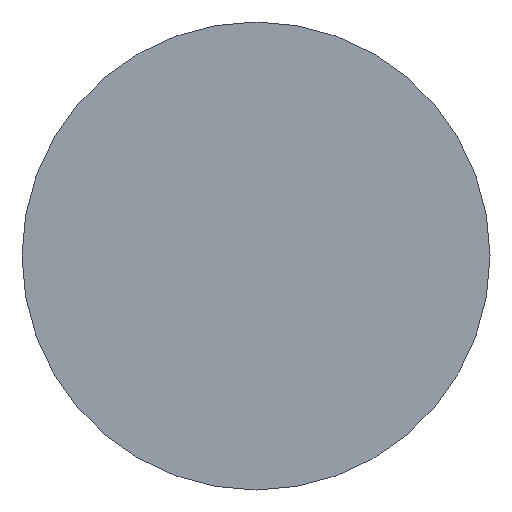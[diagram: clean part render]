
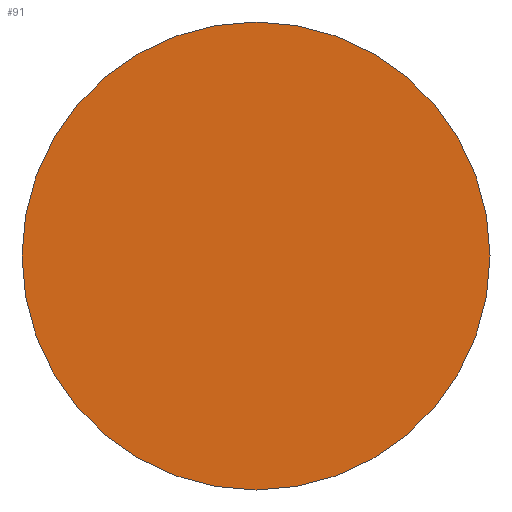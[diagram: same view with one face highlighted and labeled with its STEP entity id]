
A CAD part, left-side view. The second image highlights one B-rep face of the part: STEP entity #91.
In plain terms, the highlighted planar face has unit normal (-1, 0, 0).
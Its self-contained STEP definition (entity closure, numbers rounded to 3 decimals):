
#52=CARTESIAN_POINT('Axis2P3D Location',(0.,0.,0.)) ;
#57=CARTESIAN_POINT('Axis2P3D Location',(0.,0.,0.)) ;
#61=CARTESIAN_POINT('Vertex',(0.,0.,-21.5)) ;
#63=CARTESIAN_POINT('Vertex',(0.,21.5,0.)) ;
#66=CARTESIAN_POINT('Axis2P3D Location',(0.,0.,0.)) ;
#70=CARTESIAN_POINT('Vertex',(0.,-21.5,0.)) ;
#73=CARTESIAN_POINT('Axis2P3D Location',(0.,0.,0.)) ;
#77=CARTESIAN_POINT('Vertex',(0.,0.,21.5)) ;
#80=CARTESIAN_POINT('Axis2P3D Location',(0.,0.,0.)) ;
#53=DIRECTION('Axis2P3D Direction',(1.,0.,-0.)) ;
#54=DIRECTION('Axis2P3D XDirection',(-0.,0.,-1.)) ;
#58=DIRECTION('Axis2P3D Direction',(1.,0.,-0.)) ;
#67=DIRECTION('Axis2P3D Direction',(1.,0.,-0.)) ;
#74=DIRECTION('Axis2P3D Direction',(1.,0.,-0.)) ;
#81=DIRECTION('Axis2P3D Direction',(1.,0.,-0.)) ;
#55=AXIS2_PLACEMENT_3D('Plane Axis2P3D',#52,#53,#54) ;
#59=AXIS2_PLACEMENT_3D('Circle Axis2P3D',#57,#58,$) ;
#68=AXIS2_PLACEMENT_3D('Circle Axis2P3D',#66,#67,$) ;
#75=AXIS2_PLACEMENT_3D('Circle Axis2P3D',#73,#74,$) ;
#82=AXIS2_PLACEMENT_3D('Circle Axis2P3D',#80,#81,$) ;
#86=ORIENTED_EDGE('',*,*,#65,.F.) ;
#87=ORIENTED_EDGE('',*,*,#72,.F.) ;
#88=ORIENTED_EDGE('',*,*,#79,.F.) ;
#89=ORIENTED_EDGE('',*,*,#84,.F.) ;
#91=ADVANCED_FACE('395PSF-2',(#90),#56,.F.) ;
#60=CIRCLE('generated circle',#59,21.5) ;
#69=CIRCLE('generated circle',#68,21.5) ;
#76=CIRCLE('generated circle',#75,21.5) ;
#83=CIRCLE('generated circle',#82,21.5) ;
#65=EDGE_CURVE('',#62,#64,#60,.T.) ;
#72=EDGE_CURVE('',#71,#62,#69,.T.) ;
#79=EDGE_CURVE('',#78,#71,#76,.T.) ;
#84=EDGE_CURVE('',#64,#78,#83,.T.) ;
#85=EDGE_LOOP('',(#86,#87,#88,#89)) ;
#90=FACE_OUTER_BOUND('',#85,.T.) ;
#56=PLANE('Plane',#55) ;
#62=VERTEX_POINT('',#61) ;
#64=VERTEX_POINT('',#63) ;
#71=VERTEX_POINT('',#70) ;
#78=VERTEX_POINT('',#77) ;
